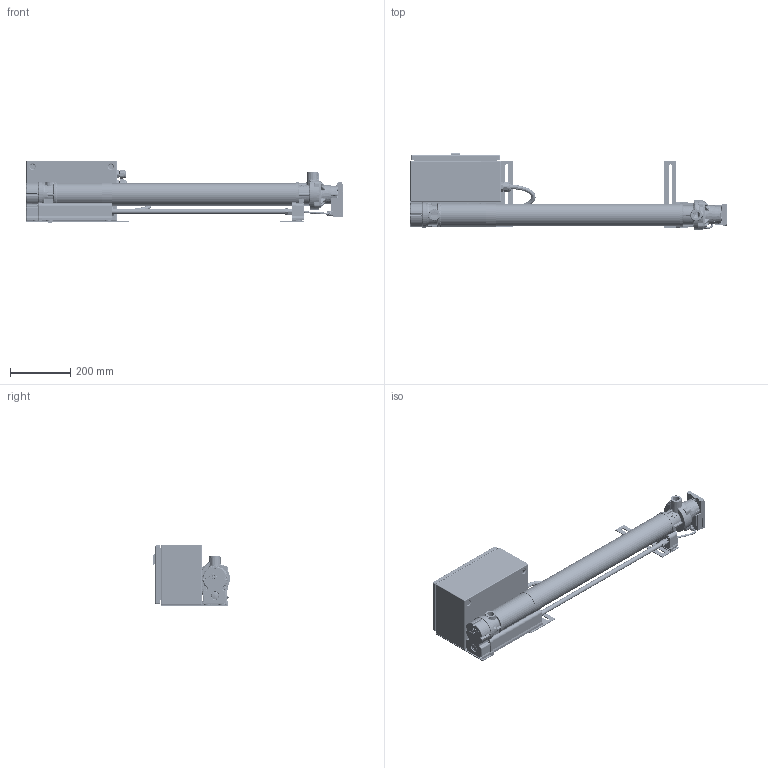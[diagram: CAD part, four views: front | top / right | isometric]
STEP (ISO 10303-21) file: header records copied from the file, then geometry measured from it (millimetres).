
FILE_DESCRIPTION (( 'STEP AP214' ), '1' );
FILE_NAME ('ASS_TOPSTART_12KW_WILOYP.STEP', '2014-01-10T08:38:19', ( '' ), ( '' ), 'SwSTEP 2.0', 'SolidWorks 2013', '' );
FILE_SCHEMA (( 'AUTOMOTIVE_DESIGN' ));
Length unit declared in the file: millimetre
Products named in the file (40): PRESSE_16; 1597025-C; Vis-Al-4; 4; 1597020-A; Bague_Sup; PLAQUE SUPPORT_2; 1597025-B; GRCAPCAR; 3; PRESSE_20; ip2632-refoidisseur-2012-09-10; Assemblage_vis; 1597025-A; Vis-Al-6; 2; Vis-Al-6-b; CORPS DE CHAUFFE TOPSTART_12KW _LG; CAISSE; 462614; 3d-stp_WILO-Intec_Motor-MS13-F14-Yonos-Para-RK-WS8; Pièce4^ASS_TOPSTART_12KW_WILOYP; 1; PLAQUE SUPPORT; 7; 1597020-R; Pièce_Iso_4; BOUCHON; 462615; Assemblage2; ASS_TOPSTART_12KW_WILOYP; 6; 1597020-C; PETCAP; TUBE_2; 1597025-R; BOUCHON_2; 5; 1597020-B; Pièce_Iso_1
Assembly tree (57 placements, depth 4):
  ASS_TOPSTART_12KW_WILOYP
    CORPS DE CHAUFFE TOPSTART_12KW _LG
    ip2632-refoidisseur-2012-09-10
    Bague_Sup
    Pièce_Iso_1
    PETCAP
    Pièce_Iso_4
    3d-stp_WILO-Intec_Motor-MS13-F14-Yonos-Para-RK-WS8
    Vis-Al-6  x4
    Assemblage2
      GRCAPCAR
      Vis-Al-4  x5
      BOUCHON_2
    Assemblage_vis
      PLAQUE SUPPORT
      Vis-Al-6-b  x8
      PRESSE_20
      462614
        1597020-A
        1597020-B
        1597020-C
        1597020-R
      462615
        1597025-A
        1597025-B
        1597025-C
        1597025-R
      CAISSE
        1
        2
        3
        4
        5
        6
        7
    PLAQUE SUPPORT_2
    PRESSE_16  x2
    PRESSE_20
    Vis-Al-6-b  x2
    TUBE_2
    BOUCHON
    Pièce4^ASS_TOPSTART_12KW_WILOYP
Bounding box: 1101.64 x 256.81 x 207.96 mm (x, y, z)
Volume: 2959994.9 mm3; surface area: 2058825.2 mm2
Topology: 51 solids, 70 shells, 5989 faces, 15262 edges, 9498 vertices
Faces by surface type: plane 1974, cylinder 1757, bspline 1607, cone 478, torus 123, sphere 50
Entity records: 339390 total; most frequent: CARTESIAN_POINT 198748, ORIENTED_EDGE 28040, DIRECTION 19285, EDGE_CURVE 14052, VERTEX_POINT 8825, AXIS2_PLACEMENT_3D 7099, EDGE_LOOP 5959, FACE_OUTER_BOUND 5533
